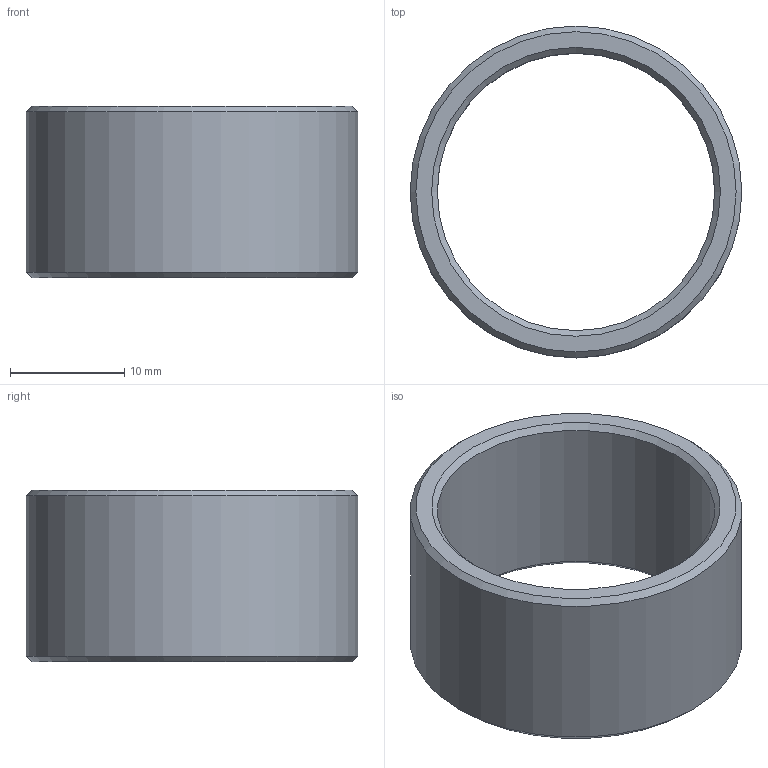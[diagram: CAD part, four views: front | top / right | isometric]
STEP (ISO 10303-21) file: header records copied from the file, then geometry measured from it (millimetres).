
FILE_DESCRIPTION(/* description */ (''),/* implementation_level */ '2;1');
FILE_NAME(/* name */ 'Y:\IvDoronin\- Фотоприемники -\- Модели -\4. Аксесуары для фотоприемников\TNut M25x1\Тубус 15 мм.stp',/* time_stamp */ '2019-08-27T17:11:15+03:00',/* author */ ('svlad'),/* organization */ (''),/* preprocessor_version */ 'ST-DEVELOPER v17',/* originating_system */ 'Autodesk Inventor 2019',/* authorisation */ '');
FILE_SCHEMA (('AUTOMOTIVE_DESIGN { 1 0 10303 214 3 1 1 }'));
Length unit declared in the file: millimetre
Products named in the file (1): Тубус 10 мм
Bounding box: 29 x 29 x 15 mm (x, y, z)
Volume: 2938 mm3; surface area: 2808.7 mm2
Topology: 1 solids, 1 shells, 8 faces, 14 edges, 8 vertices
Faces by surface type: cone 4, cylinder 2, plane 2
Full cylindrical faces by diameter (mm): 24.25 x1, 29 x1
Entity records: 231 total; most frequent: DIRECTION 40, CARTESIAN_POINT 31, ORIENTED_EDGE 28, AXIS2_PLACEMENT_3D 17, EDGE_CURVE 14, EDGE_LOOP 10, FACE_OUTER_BOUND 8, CIRCLE 8
